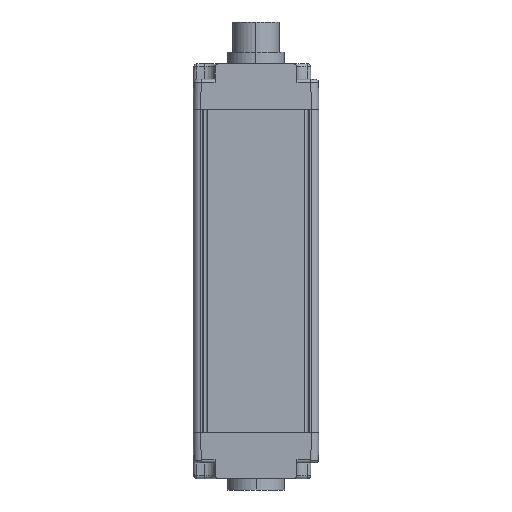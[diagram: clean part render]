
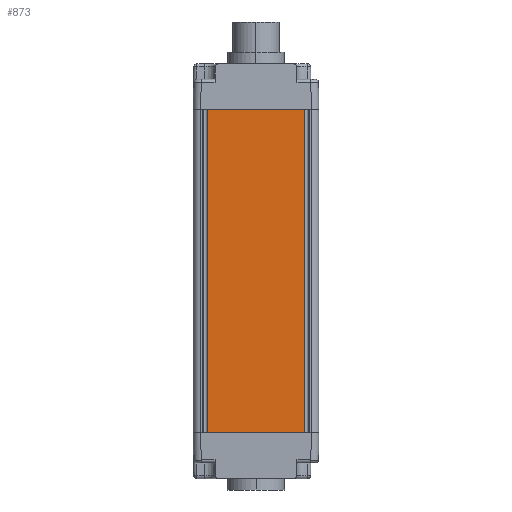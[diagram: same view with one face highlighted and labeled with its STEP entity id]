
A CAD part, left-side view. The second image highlights one B-rep face of the part: STEP entity #873.
In plain terms, the highlighted planar face has unit normal (-1, 0, 0).
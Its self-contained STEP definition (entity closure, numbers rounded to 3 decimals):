
#873=ADVANCED_FACE('',(#1848),#1441,.T.);
#1441=PLANE('',#12952);
#1848=FACE_OUTER_BOUND('',#2457,.T.);
#2457=EDGE_LOOP('',(#6197,#6198,#6199,#6200));
#3057=LINE('',#17689,#4226);
#3087=LINE('',#17783,#4256);
#3276=LINE('',#18323,#4445);
#3277=LINE('',#18325,#4446);
#4226=VECTOR('',#14066,1.);
#4256=VECTOR('',#14142,1.);
#4445=VECTOR('',#14715,1.);
#4446=VECTOR('',#14718,1.);
#6197=ORIENTED_EDGE('',*,*,#10488,.F.);
#6198=ORIENTED_EDGE('',*,*,#10796,.T.);
#6199=ORIENTED_EDGE('',*,*,#10535,.T.);
#6200=ORIENTED_EDGE('',*,*,#10797,.T.);
#9232=VERTEX_POINT('',#17688);
#9233=VERTEX_POINT('',#17690);
#9273=VERTEX_POINT('',#17782);
#9274=VERTEX_POINT('',#17784);
#10488=EDGE_CURVE('',#9232,#9233,#3057,.T.);
#10535=EDGE_CURVE('',#9274,#9273,#3087,.T.);
#10796=EDGE_CURVE('',#9232,#9274,#3276,.T.);
#10797=EDGE_CURVE('',#9273,#9233,#3277,.T.);
#12952=AXIS2_PLACEMENT_3D('',#18326,#14719,#14720);
#14066=DIRECTION('',(0.,1.,0.));
#14142=DIRECTION('',(0.,1.,0.));
#14715=DIRECTION('',(0.,0.,1.));
#14718=DIRECTION('',(0.,0.,-1.));
#14719=DIRECTION('',(-1.,0.,0.));
#14720=DIRECTION('',(0.,1.,0.));
#17688=CARTESIAN_POINT('',(-15.9,-12.8,0.));
#17689=CARTESIAN_POINT('',(-15.9,-12.8,0.));
#17690=CARTESIAN_POINT('',(-15.9,12.8,0.));
#17782=CARTESIAN_POINT('',(-15.9,12.8,85.));
#17783=CARTESIAN_POINT('',(-15.9,16.5,85.));
#17784=CARTESIAN_POINT('',(-15.9,-12.8,85.));
#18323=CARTESIAN_POINT('',(-15.9,-12.8,0.));
#18325=CARTESIAN_POINT('',(-15.9,12.8,100.));
#18326=CARTESIAN_POINT('',(-15.9,16.5,0.));
